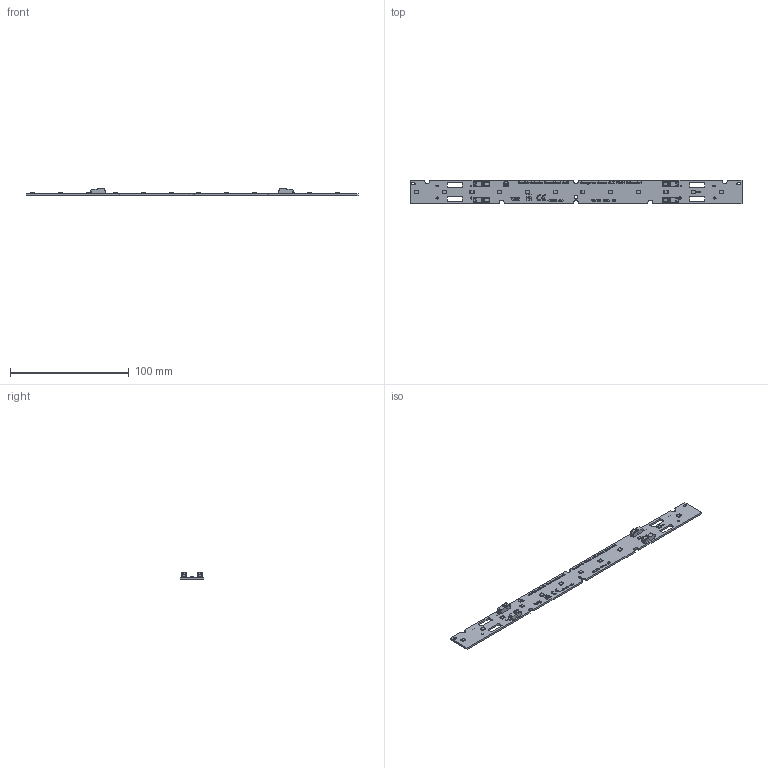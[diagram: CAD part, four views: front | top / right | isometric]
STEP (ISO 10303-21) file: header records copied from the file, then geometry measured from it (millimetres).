
FILE_DESCRIPTION(('Creo Elements/Direct Modeling STEP Export'),'2;1');
FILE_NAME('3D-Model-WU-M-749-TC.stp','2024-12-13T11:15:50',(''),(''),'PTC Creo Elements/Direct Modeling STEP processor for AP214 (Solid Model)','PTC Creo Elements/Direct Modeling 19.0E 27-Jun-2016 (C) Parametric Technology GmbH','');
FILE_SCHEMA(('AUTOMOTIVE_DESIGN { 1 0 10303 214 1 1 1 1 }'));
Length unit declared in the file: millimetre
Products named in the file (123): p1.1; p1; ______STEP.ASM; _____-0_STEP.PRT.7; 2835PCT_3D_MODEL_STEP.ASM; 2835PCT_3D_MODEL_ORIGIN_CORRECT.ASM; J_SERIES_2835.STEP; 3D-Baza-Adresa_WU-M-749.34; 3D-Baza-Adresa_WU-M-749.16; 3D-Baza-Adresa_WU-M-749.36; 3D-Baza-Adresa_WU-M-749.21; 3D-Baza-Adresa_WU-M-749.27; 3D-Baza-Adresa_WU-M-749.39; 3D-Baza-Adresa_WU-M-749.41; 3D-Baza-Adresa_WU-M-749.26; 3D-Baza-Adresa_WU-M-749.32; 3D-Baza-Adresa_WU-M-749.35; 3D-Baza-Adresa_WU-M-749.49; 3D-Baza-Adresa_WU-M-749.20; 3D-Baza-Adresa_WU-M-749.65; 3D-Baza-Adresa_WU-M-749.31; 3D-Baza-Adresa_WU-M-749.53; 3D-Baza-Adresa_WU-M-749.13; 3D-Baza-Adresa_WU-M-749.29; 3D-Baza-Adresa_WU-M-749.22; 3D-Baza-Adresa_WU-M-749.28; 3D-Baza-Adresa_WU-M-749.33; 3D-Baza-Adresa_WU-M-749.19; 3D-Baza-Adresa_WU-M-749.61; 3D-Baza-Adresa_WU-M-749.64; 3D-Baza-Adresa_WU-M-749.15; 3D-Baza-Adresa_WU-M-749.66; 3D-Baza-Adresa_WU-M-749.45; 3D-Baza-Adresa_WU-M-749.40; 3D-Baza-Adresa_WU-M-749.58; 3D-Baza-Adresa_WU-M-749.67; 3D-Baza-Adresa_WU-M-749.14; 3D-Baza-Adresa_WU-M-749.56; 3D-Baza-Adresa_WU-M-749.23; 3D-Baza-Adresa_WU-M-749.59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
Assembly tree (128 placements, depth 4):
  p1.1
  p1
  J_SERIES_2835.STEP
    2835PCT_3D_MODEL_ORIGIN_CORRECT.ASM
      2835PCT_3D_MODEL_STEP.ASM
        _____-0_STEP.PRT.7  x12
        ______STEP.ASM
  Adresa-Sklop
    3D-Baza-Adresa_WU-M-749.88
    3D-Baza-Adresa_WU-M-749.99
    3D-Baza-Adresa_WU-M-749.79
    3D-Baza-Adresa_WU-M-749.84
    3D-Baza-Adresa_WU-M-749.110
    3D-Baza-Adresa_WU-M-749.75
    3D-Baza-Adresa_WU-M-749.107
    3D-Baza-Adresa_WU-M-749.98
    3D-Baza-Adresa_WU-M-749.97
    3D-Baza-Adresa_WU-M-749.104
    3D-Baza-Adresa_WU-M-749.70
    3D-Baza-Adresa_WU-M-749.96
    3D-Baza-Adresa_WU-M-749.94
    3D-Baza-Adresa_WU-M-749.86
    3D-Baza-Adresa_WU-M-749.106
    3D-Baza-Adresa_WU-M-749.102
    3D-Baza-Adresa_WU-M-749.108
    3D-Baza-Adresa_WU-M-749.93
    3D-Baza-Adresa_WU-M-749.74
    3D-Baza-Adresa_WU-M-749.95
    3D-Baza-Adresa_WU-M-749.92
    3D-Baza-Adresa_WU-M-749.76
    3D-Baza-Adresa_WU-M-749.91
    3D-Baza-Adresa_WU-M-749.90
    3D-Baza-Adresa_WU-M-749.69
    3D-Baza-Adresa_WU-M-749.83
    3D-Baza-Adresa_WU-M-749.103
    3D-Baza-Adresa_WU-M-749.100
    3D-Baza-Adresa_WU-M-749.87
    3D-Baza-Adresa_WU-M-749.109
    3D-Baza-Adresa_WU-M-749.78
    3D-Baza-Adresa_WU-M-749.105
    3D-Baza-Adresa_WU-M-749.77
    3D-Baza-Adresa_WU-M-749.101
    3D-Baza-Adresa_WU-M-749.73
    3D-Baza-Adresa_WU-M-749.89
    3D-Baza-Adresa_WU-M-749.80
    3D-Baza-Adresa_WU-M-749.82
    3D-Baza-Adresa_WU-M-749.85
    3D-Baza-Adresa_WU-M-749.72
    3D-Baza-Adresa_WU-M-749.68
    3D-Baza-Adresa_WU-M-749.1
    3D-Baza-Adresa_WU-M-749.5
    3D-Baza-Adresa_WU-M-749.8
    3D-Baza-Adresa_WU-M-749.7
    3D-Baza-Adresa_WU-M-749
    3D-Baza-Adresa_WU-M-749.3
    3D-Baza-Adresa_WU-M-749.4
    3D-Baza-Adresa_WU-M-749.10
    3D-Baza-Adresa_WU-M-749.9
    3D-Baza-Adresa_WU-M-749.6
    3D-Baza-Adresa_WU-M-749.12
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Bounding box: 279 x 20 x 6.1 mm (x, y, z)
Volume: 9017.8 mm3; surface area: 13775.8 mm2
Topology: 114 solids, 174 shells, 4478 faces, 12122 edges, 7960 vertices
Faces by surface type: plane 3454, cylinder 1016, sphere 8
Entity records: 115406 total; most frequent: CARTESIAN_POINT 16548, ORIENTED_EDGE 15898, DIRECTION 15440, EDGE_CURVE 7945, VECTOR 6354, LINE 6354, VERTEX_POINT 5287, AXIS2_PLACEMENT_3D 4543
